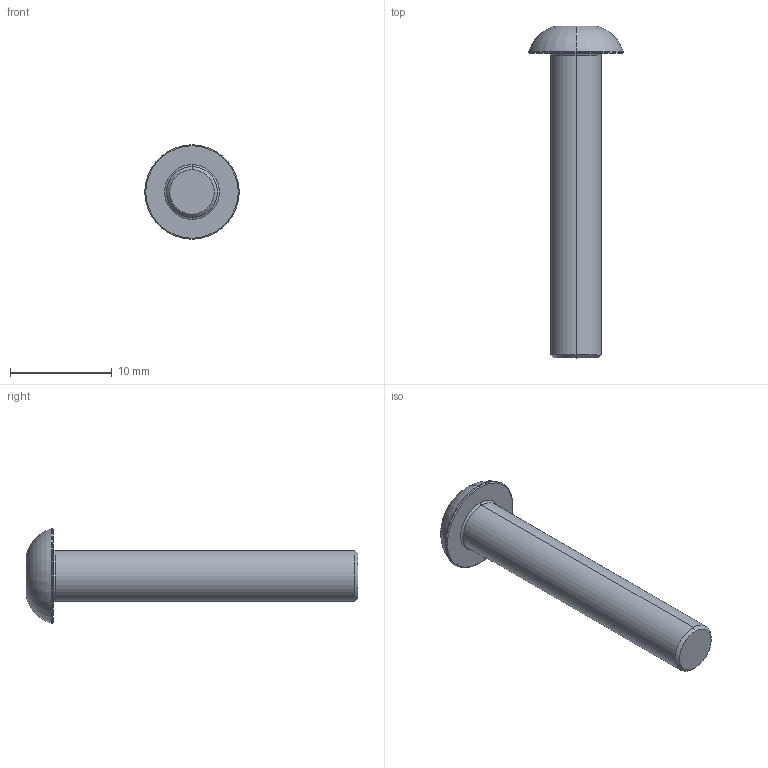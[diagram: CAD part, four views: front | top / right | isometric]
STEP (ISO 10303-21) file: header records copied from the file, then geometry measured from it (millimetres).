
FILE_DESCRIPTION (( 'STEP AP203' ), '1' );
FILE_NAME ('LGDD-304-M5x30.STEP', '2026-08-08T04:49:09', ( '' ), ( '' ), 'SwSTEP 2.0', 'SolidWorks 2020', '' );
FILE_SCHEMA (( 'CONFIG_CONTROL_DESIGN' ));
Length unit declared in the file: millimetre
Products named in the file (1): LGDD-304-M5x30
Bounding box: 9.3 x 32.7 x 9.3 mm (x, y, z)
Volume: 702.9 mm3; surface area: 659.7 mm2
Topology: 1 solids, 1 shells, 31 faces, 59 edges, 32 vertices
Faces by surface type: plane 10, cone 9, torus 8, cylinder 4
Entity records: 864 total; most frequent: CARTESIAN_POINT 154, DIRECTION 149, ORIENTED_EDGE 118, AXIS2_PLACEMENT_3D 65, EDGE_CURVE 59, EDGE_LOOP 33, CIRCLE 33, VERTEX_POINT 32
